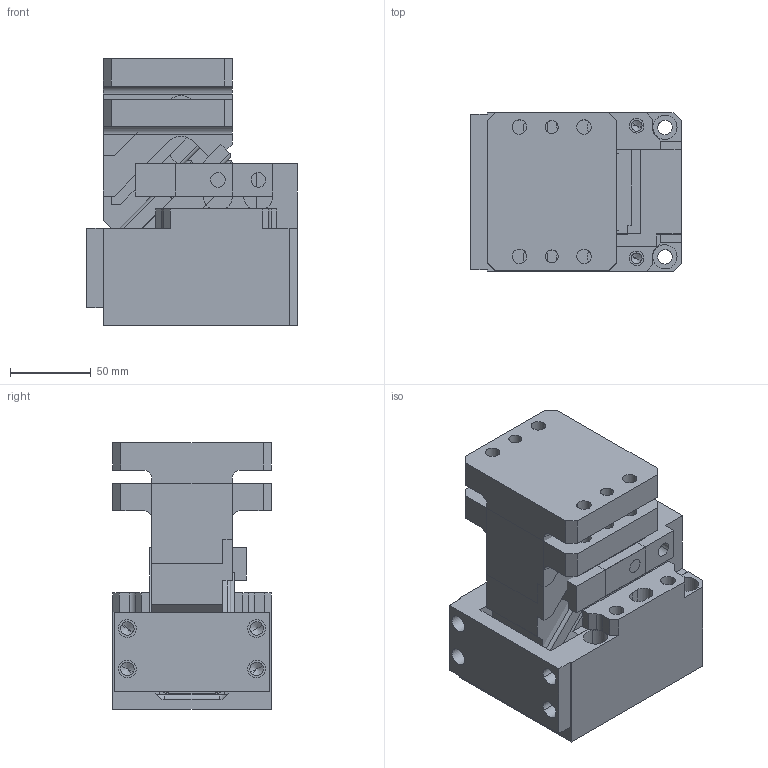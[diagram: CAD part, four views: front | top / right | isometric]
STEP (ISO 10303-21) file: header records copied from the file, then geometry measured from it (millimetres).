
FILE_DESCRIPTION(('CATIA V5 STEP','CAx-IF Rec.Pracs.--- Model Styling and Organization---1.4--- 2014-01-23','CAx-IF Rec.Pracs.---3D Tessellated Data Validation Properties---0.5---2014-09-14'),'2;1');
FILE_NAME('H:\_COMPRESS_2\2016.14.00.052.025.1.2__CM.stp','2020-11-18T12:45:27+00:00',('${USER}'),('AUDI AG, ${GROUP}'),'CATIA Version 5-6 Release 2018 SP3 HF27','CATIA V5 STEP AP242','none');
FILE_SCHEMA(('AP242_MANAGED_MODEL_BASED_3D_ENGINEERING_MIM_LF {1 0 10303 442 1 1 4}'));
Length unit declared in the file: millimetre
Products named in the file (1): 2016.14.00.052.025.1.2__CM
Bounding box: 130 x 98 x 165 mm (x, y, z)
Volume: 1687789.9 mm3; surface area: 242115.1 mm2
Topology: 4 solids, 5 shells, 540 faces, 1351 edges, 858 vertices
Faces by surface type: plane 277, cylinder 209, cone 32, torus 16, sphere 4, bspline 2
Entity records: 15290 total; most frequent: CARTESIAN_POINT 3041, ORIENTED_EDGE 2656, DIRECTION 2097, EDGE_CURVE 1328, VECTOR 855, LINE 855, VERTEX_POINT 854, AXIS2_PLACEMENT_3D 840
